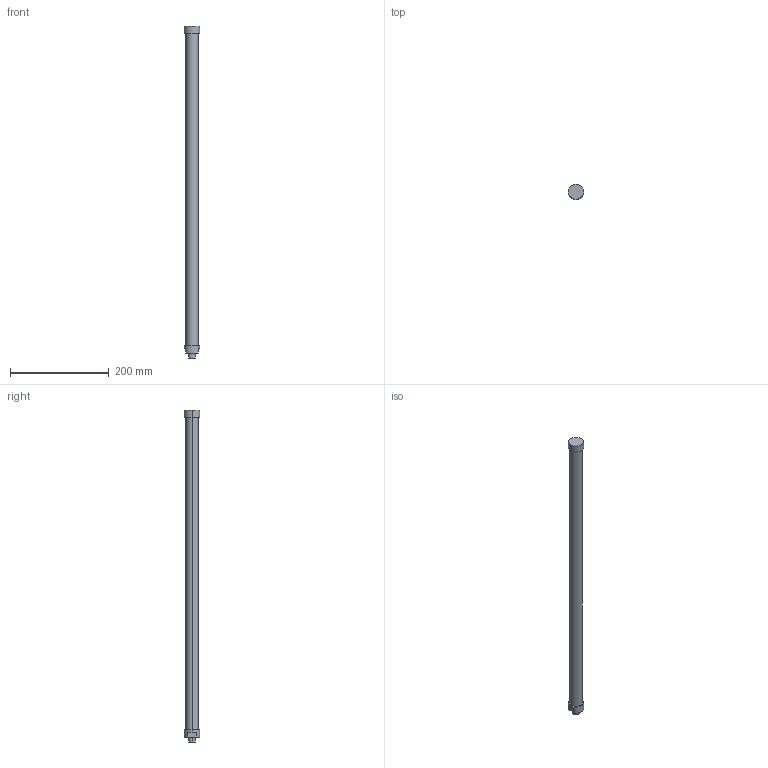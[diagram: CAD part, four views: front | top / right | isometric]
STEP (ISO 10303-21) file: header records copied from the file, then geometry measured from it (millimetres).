
FILE_DESCRIPTION(('STEP AP214'),'1');
FILE_NAME('C:/Users/Autocad/Desktop/L674-C450S1-FN.stp','2014-02-10T10:59:52',(' '),(' '),'Spatial InterOp 3D',' ',' ');
FILE_SCHEMA(('automotive_design'));
Length unit declared in the file: metre
Products named in the file (2): 1; 2
Bounding box: 31 x 31 x 674 mm (x, y, z)
Volume: 334428.1 mm3; surface area: 55761.1 mm2
Topology: 1 solids, 4 shells, 23 faces, 54 edges, 40 vertices
Faces by surface type: cylinder 12, plane 11
Entity records: 916 total; most frequent: DIRECTION 136, CARTESIAN_POINT 119, ORIENTED_EDGE 96, AXIS2_PLACEMENT_3D 57, EDGE_CURVE 54, VERTEX_POINT 40, CIRCLE 32, EDGE_LOOP 28
